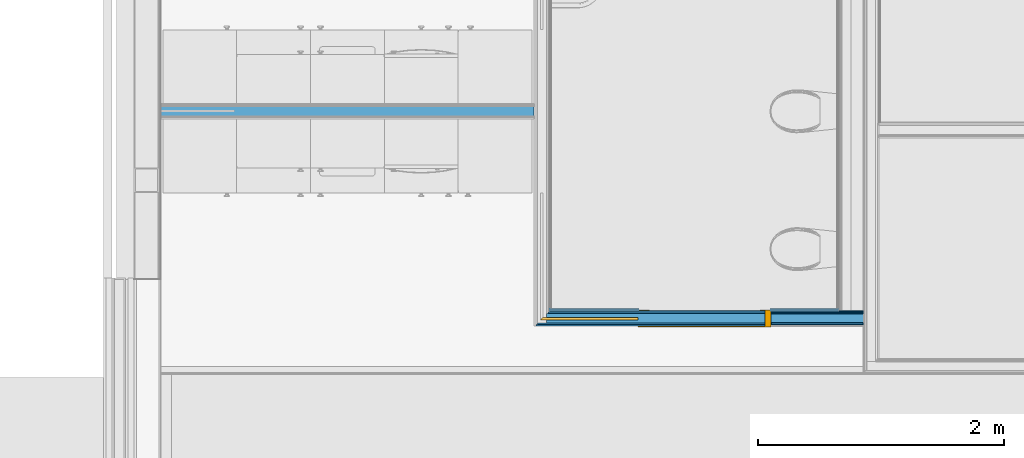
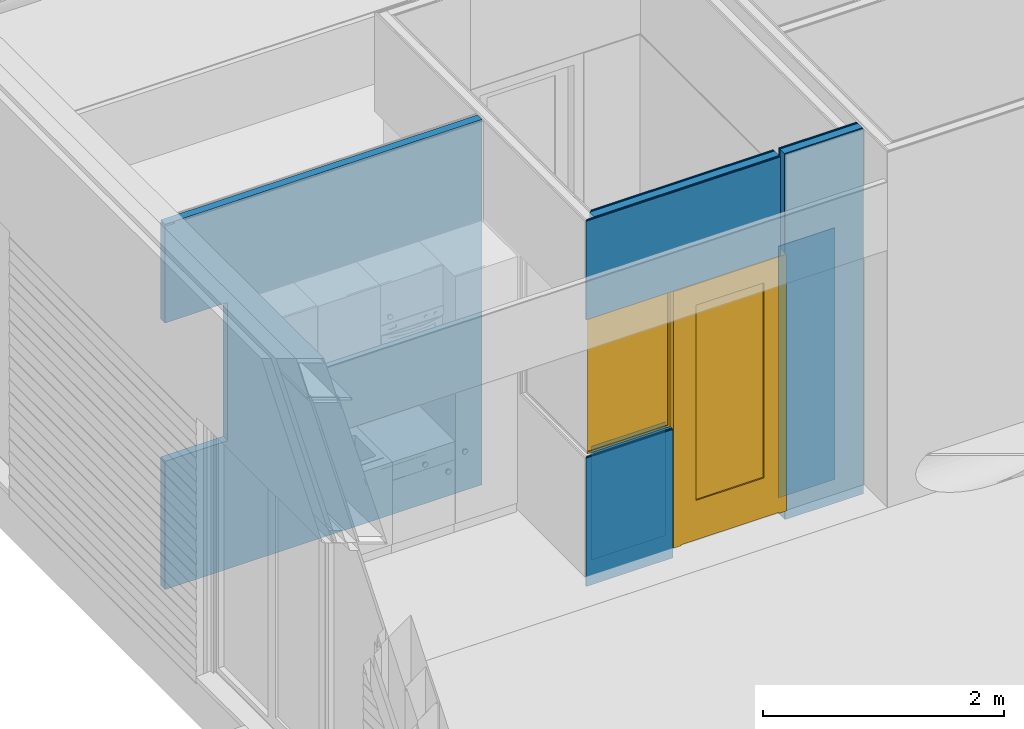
# One storey, part 53 of 165: 12 building element parts, 2 doors, 3 openings, 5 elements without a shape of their own.
"""IFC2X3 building model written with IfcOpenShell, lengths in millimetres."""

from ifc_helpers import new_model, entity, si_unit, converted_unit, derived_unit, money_unit, direction, frame, origin_with_axes, place, context, subcontext, project, spatial, open_shell, faceted_brep, surface_model, material, type_object, element, fill, aggregate, save


model = new_model("IFC2X3")

# Units and contexts
model_context = context("Model", 3, precision=0.01, world=origin_with_axes(), true_north=direction((0.0, 1.0)))
body_context = subcontext(model_context, "Body", "Model", "MODEL_VIEW")
ifc_project = project(units=[si_unit("LENGTHUNIT", "METRE", prefix="MILLI"), si_unit("AREAUNIT", "SQUARE_METRE"), si_unit("VOLUMEUNIT", "CUBIC_METRE"), converted_unit("PLANEANGLEUNIT", "DEGREE", entity("IfcPlaneAngleMeasure", 0.0174532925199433), si_unit("PLANEANGLEUNIT", "RADIAN"), dimensions=[0, 0, 0, 0, 0, 0, 0]), money_unit("EUR"), converted_unit("TIMEUNIT", "Year", entity("IfcTimeMeasure", 31556926.0), si_unit("TIMEUNIT", "SECOND"), dimensions=[0, 0, 1, 0, 0, 0, 0]), si_unit("MASSUNIT", "GRAM", prefix="KILO"), si_unit("THERMODYNAMICTEMPERATUREUNIT", "DEGREE_CELSIUS"), si_unit("LUMINOUSINTENSITYUNIT", "LUMEN"), si_unit("ENERGYUNIT", "JOULE", prefix="MEGA"), derived_unit("THERMALCONDUCTANCEUNIT", [(si_unit("POWERUNIT", "WATT"), 1), (si_unit("LENGTHUNIT", "METRE"), -1), (si_unit("THERMODYNAMICTEMPERATUREUNIT", "KELVIN"), -1)]), derived_unit("SPECIFICHEATCAPACITYUNIT", [(si_unit("ENERGYUNIT", "JOULE"), 1), (si_unit("MASSUNIT", "GRAM", prefix="KILO"), -1), (si_unit("THERMODYNAMICTEMPERATUREUNIT", "KELVIN"), -1)]), derived_unit("MASSDENSITYUNIT", [(si_unit("MASSUNIT", "GRAM", prefix="KILO"), 1), (si_unit("VOLUMEUNIT", "CUBIC_METRE"), -1)])], contexts=[model_context])

# Site, building, storey
site_placement = place(None, origin_with_axes())
site = spatial("IfcSite", under=ifc_project, at=site_placement, Name="Site", CompositionType="ELEMENT")
building_placement = place(site_placement, origin_with_axes())
building = spatial("IfcBuilding", under=site, at=building_placement, Name="Naam gebouw", CompositionType="ELEMENT")
storey_placement = place(building_placement, origin_with_axes())
storey = spatial("IfcBuildingStorey", under=building, at=storey_placement, Name="Begane grond", CompositionType="ELEMENT", Elevation=0.0)

# Door
door_style_1 = type_object("IfcDoorStyle", Name="R1 26", ConstructionType="NOTDEFINED", OperationType="SINGLE_SWING_RIGHT", ParameterTakesPrecedence=False, Sizeable=False)
proxy_1_placement = place(storey_placement, frame((3249.984153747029, 9625.000166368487, -100.0), z_axis=(0.0, 0.0, 1.0), x_axis=(0.9999999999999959, -9.034499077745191e-08, 0.0)))
opening_1_placement = place(proxy_1_placement, frame((457.4995035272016, 0.0, 1300.0), z_axis=(0.0, 0.0, 1.0), x_axis=(1.0, 0.0, 0.0)))
door_1_placement = place(opening_1_placement, frame((387.499510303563, 0.0, 0.0), z_axis=(0.0, 0.0, 1.0), x_axis=(-1.0, 0.0, 0.0)))
door_1 = element("IfcDoor", 1, at=door_1_placement, inside=storey, type_object=door_style_1, Name="_C.04", ObjectType="DOOR", OverallHeight=1400.0, OverallWidth=774.999, context=body_context, shape_type="SurfaceModel", body=[
    faceted_brep([(20.00000632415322, -70.00007453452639, 1380.0), (20.00000451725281, -50.00007453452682, 1380.0), (4.517252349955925e-06, -50.00007634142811, 1380.0), (6.324152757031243e-06, -70.00007634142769, 1380.0), (20.00000632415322, -70.00007453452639, 20.00000000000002), (20.00000451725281, -50.00007453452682, 20.00000000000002), (4.517252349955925e-06, -50.00007634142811, 20.00000000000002), (6.324152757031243e-06, -70.00007634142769, 20.00000000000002)], [[[0, 1, 2, 3]], [[4, 5, 1, 0]], [[1, 5, 6, 2]], [[3, 2, 6, 7]], [[0, 3, 7, 4]], [[7, 6, 5, 4]]]),
    faceted_brep([(4.517252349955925e-06, -50.00007634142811, 20.00000000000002), (6.324152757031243e-06, -70.00007634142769, 20.00000000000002), (20.00000632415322, -70.00007453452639, 20.00000000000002), (20.00000451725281, -50.00007453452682, 20.00000000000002), (6.324152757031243e-06, -70.00007634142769, 0.0), (4.517252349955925e-06, -50.00007634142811, 0.0), (774.9990269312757, -70.00000632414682, 0.0), (774.9990269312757, -70.00000632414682, 20.00000000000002), (794.9990251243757, -50.00000451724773, 20.00000000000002), (794.9990251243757, -50.00000451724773, 0.0)], [[[0, 1, 2, 3]], [[4, 1, 0, 5]], [[1, 4, 6, 7, 2]], [[2, 7, 8, 3]], [[5, 0, 3, 8, 9]], [[5, 9, 6, 4]], [[7, 6, 9, 8]]]),
    faceted_brep([(4.517252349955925e-06, -50.00007634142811, 1380.0), (20.00000451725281, -50.00007453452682, 1380.0), (20.00000632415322, -70.00007453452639, 1380.0), (6.324152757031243e-06, -70.00007634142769, 1380.0), (4.517252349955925e-06, -50.00007634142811, 1400.0), (794.9990251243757, -50.00000451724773, 1400.0), (794.9990251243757, -50.00000451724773, 1380.0), (774.9990269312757, -70.00000632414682, 1380.0), (6.324152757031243e-06, -70.00007634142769, 1400.0), (774.9990269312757, -70.00000632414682, 1400.0)], [[[0, 1, 2, 3]], [[0, 4, 5, 6, 1]], [[7, 2, 1, 6]], [[8, 3, 2, 7, 9]], [[3, 8, 4, 0]], [[4, 8, 9, 5]], [[9, 7, 6, 5]]]),
    surface_model("IfcShellBasedSurfaceModel", [(20.00000587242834, -65.00007453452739, 20.00000000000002), (779.9990264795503, -65.00000587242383, 20.00000000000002), (779.9990264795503, -65.00000587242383, 1380.0), (20.00000587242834, -65.00007453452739, 1380.0)], [open_shell([[[0, 1, 2, 3]]])]),
    surface_model("IfcShellBasedSurfaceModel", [(20.00000496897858, -55.0000745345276, 20.00000000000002), (20.00000496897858, -55.0000745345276, 1380.0), (789.9990255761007, -55.00000496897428, 1380.0), (789.9990255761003, -55.00000496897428, 20.00000000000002)], [open_shell([[[0, 1, 2, 3]]])]),
])

door_style_2 = type_object("IfcDoorStyle", Name="D1 26", ConstructionType="NOTDEFINED", OperationType="SINGLE_SWING_LEFT", ParameterTakesPrecedence=False, Sizeable=False)
opening_2_placement = place(proxy_1_placement, frame((1384.999013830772, 0.0, 100.0), z_axis=(0.0, 0.0, 1.0), x_axis=(1.0, 0.0, 0.0)))
door_2_placement = place(opening_2_placement, frame((449.9999999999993, 0.0, 0.0), z_axis=(0.0, 0.0, 1.0), x_axis=(-1.0, 0.0, 0.0)))
door_2 = element("IfcDoor", 2, at=door_2_placement, inside=storey, type_object=door_style_2, Name="_02.02", ObjectType="DOOR", OverallHeight=2600.0, OverallWidth=1080.0, context=body_context, shape_type="SurfaceModel", body=[
    faceted_brep([(900.000002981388, -33.00008447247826, 0.0), (900.0000119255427, -132.0000844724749, 0.0), (900.0000119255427, -132.0000844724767, 2510.0), (900.000002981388, -33.00008447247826, 2510.0), (917.0000029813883, -33.0000829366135, 0.0), (916.9999993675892, 6.999917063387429, 0.0), (989.9999993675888, 6.999923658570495, 0.0), (990.0000119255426, -132.0000763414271, 0.0), (990.0000119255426, -132.0000763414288, 2510.0), (917.0000029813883, -33.0000829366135, 2510.0), (989.9999993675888, 6.999923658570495, 2510.0), (916.9999993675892, 6.999917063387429, 2510.0)], [[[0, 1, 2, 3]], [[4, 5, 6, 7, 1, 0]], [[1, 7, 8, 2]], [[9, 3, 2, 8, 10, 11]], [[9, 4, 0, 3]], [[11, 5, 4, 9]], [[11, 10, 6, 5]], [[6, 10, 8, 7]]]),
    faceted_brep([(-16.99999701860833, -33.00016731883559, 2510.0), (-17.00000063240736, 6.99983268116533, 2510.0), (-90.00000063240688, 6.999826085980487, 2510.0), (-89.99998807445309, -132.0001739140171, 2510.0), (1.192554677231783e-05, -132.0001657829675, 2510.0), (2.981392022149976e-06, -33.00016578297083, 2510.0), (-16.99999701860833, -33.00016731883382, 0.0), (-17.00000063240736, 6.99983268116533, 0.0), (-90.00000063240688, 6.999826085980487, 0.0), (-89.99998807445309, -132.0001739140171, 0.0), (1.192554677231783e-05, -132.0001657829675, 0.0), (2.981392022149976e-06, -33.00016578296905, 0.0)], [[[0, 1, 2, 3, 4, 5]], [[0, 6, 7, 1]], [[7, 8, 2, 1]], [[2, 8, 9, 3]], [[3, 9, 10, 4]], [[5, 4, 10, 11]], [[5, 11, 6, 0]], [[6, 11, 10, 9, 8, 7]]]),
    faceted_brep([(916.9999993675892, 6.999917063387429, 2527.0), (-17.00000063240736, 6.99983268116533, 2527.0), (-17.00000063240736, 6.99983268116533, 2510.0), (-90.00000063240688, 6.999826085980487, 2510.0), (-90.00000063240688, 6.999826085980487, 2600.0), (989.9999993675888, 6.999923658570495, 2600.0), (989.9999993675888, 6.999923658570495, 2510.0), (916.9999993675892, 6.999917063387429, 2510.0), (917.0000029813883, -33.0000829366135, 2527.0), (-16.99999701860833, -33.00016731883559, 2527.0), (-16.99999701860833, -33.00016731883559, 2510.0), (2.981392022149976e-06, -33.00016578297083, 2510.0), (1.192554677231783e-05, -132.0001657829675, 2510.0), (-89.99998807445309, -132.0001739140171, 2510.0), (-89.99998807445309, -132.0001739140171, 2600.0), (990.0000119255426, -132.0000763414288, 2600.0), (990.0000119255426, -132.0000763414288, 2510.0), (917.0000029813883, -33.0000829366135, 2510.0), (900.0000119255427, -132.0000844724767, 2510.0), (900.000002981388, -33.00008447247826, 2510.0)], [[[0, 1, 2, 3, 4, 5, 6, 7]], [[0, 8, 9, 1]], [[1, 9, 10, 2]], [[10, 11, 12, 13, 3, 2]], [[4, 3, 13, 14]], [[5, 4, 14, 15]], [[6, 5, 15, 16]], [[17, 7, 6, 16, 18, 19]], [[7, 17, 8, 0]], [[10, 9, 8, 17, 19, 11]], [[19, 18, 12, 11]], [[12, 18, 16, 15, 14, 13]]]),
    faceted_brep([(-17.00000063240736, 6.99983268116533, 410.0000000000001), (122.9999993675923, 6.999845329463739, 410.0000000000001), (123.0000029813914, -33.00015467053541, 410.0000000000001), (-16.99999701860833, -33.00016731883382, 410.0000000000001), (-17.00000063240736, 6.99983268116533, 2387.0), (122.9999993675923, 6.999845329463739, 2387.0), (123.0000029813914, -33.00015467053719, 2387.0), (-16.99999701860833, -33.00016731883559, 2387.0)], [[[0, 1, 2, 3]], [[0, 4, 5, 1]], [[1, 5, 6, 2]], [[3, 2, 6, 7]], [[4, 0, 3, 7]], [[5, 4, 7, 6]]]),
    faceted_brep([(916.9999993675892, 6.999917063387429, 410.0000000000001), (916.9999993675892, 6.999917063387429, 2387.0), (917.0000029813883, -33.0000829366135, 2387.0), (917.0000029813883, -33.0000829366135, 410.0000000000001), (776.9999993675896, 6.99990441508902, 410.0000000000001), (776.9999993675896, 6.99990441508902, 2387.0), (777.0000029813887, -33.0000955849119, 2387.0), (777.0000029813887, -33.0000955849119, 410.0000000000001)], [[[0, 1, 2, 3]], [[0, 4, 5, 1]], [[1, 5, 6, 2]], [[3, 2, 6, 7]], [[4, 0, 3, 7]], [[5, 4, 7, 6]]]),
    faceted_brep([(-17.00000063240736, 6.99983268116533, 10.0), (916.9999993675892, 6.999917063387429, 10.0), (917.0000029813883, -33.0000829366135, 9.999999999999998), (-16.99999701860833, -33.00016731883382, 9.999999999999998), (-17.00000063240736, 6.99983268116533, 410.0000000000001), (122.9999993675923, 6.999845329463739, 410.0000000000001), (776.9999993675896, 6.99990441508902, 410.0000000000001), (916.9999993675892, 6.999917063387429, 410.0000000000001), (917.0000029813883, -33.0000829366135, 410.0000000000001), (777.0000029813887, -33.0000955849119, 410.0000000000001), (123.0000029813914, -33.00015467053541, 410.0000000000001), (-16.99999701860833, -33.00016731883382, 410.0000000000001)], [[[0, 1, 2, 3]], [[0, 4, 5, 6, 7, 1]], [[1, 7, 8, 2]], [[3, 2, 8, 9, 10, 11]], [[4, 0, 3, 11]], [[5, 4, 11, 10]], [[6, 5, 10, 9]], [[7, 6, 9, 8]]]),
    faceted_brep([(-17.00000063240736, 6.99983268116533, 2527.0), (-17.00000063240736, 6.99983268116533, 2387.0), (-16.99999701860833, -33.00016731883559, 2387.0), (-16.99999701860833, -33.00016731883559, 2527.0), (916.9999993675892, 6.999917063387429, 2527.0), (916.9999993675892, 6.999917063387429, 2387.0), (776.9999993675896, 6.99990441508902, 2387.0), (122.9999993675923, 6.999845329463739, 2387.0), (123.0000029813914, -33.00015467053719, 2387.0), (777.0000029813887, -33.0000955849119, 2387.0), (917.0000029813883, -33.0000829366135, 2387.0), (917.0000029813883, -33.0000829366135, 2527.0)], [[[0, 1, 2, 3]], [[0, 4, 5, 6, 7, 1]], [[1, 7, 8, 2]], [[3, 2, 8, 9, 10, 11]], [[4, 0, 3, 11]], [[5, 4, 11, 10]], [[6, 5, 10, 9]], [[7, 6, 9, 8]]]),
    surface_model("IfcShellBasedSurfaceModel", [(123.0000006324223, -7.000154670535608, 410.0000000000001), (123.0000006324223, -7.000154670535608, 2387.0), (777.0000006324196, -7.000095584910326, 2387.0), (777.0000006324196, -7.000095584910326, 410.0000000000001)], [open_shell([[[0, 1, 2, 3]]])]),
    surface_model("IfcShellBasedSurfaceModel", [(123.0000017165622, -19.00015467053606, 410.0000000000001), (777.0000017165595, -19.00009558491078, 410.0000000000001), (777.0000017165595, -19.00009558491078, 2387.0), (123.0000017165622, -19.00015467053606, 2387.0)], [open_shell([[[0, 1, 2, 3]]])]),
])

# Proxy, opening
building_element_proxy_type_1 = type_object("IfcBuildingElementProxyType", Name="22 Metal stud 125 gips 125", PredefinedType="NOTDEFINED")
proxy_1 = element("IfcBuildingElementProxy", 3, at=proxy_1_placement, inside=storey, type_object=building_element_proxy_type_1, Name="_Wand-x")
opening_1 = element("IfcOpeningElement", 4, at=opening_1_placement, cuts=proxy_1, Name="_C.04", context=body_context, shape_type="Brep", body=[
    faceted_brep([(387.4995057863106, 50.00007634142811, 0.0), (387.4995057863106, 50.00007634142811, 1400.0), (387.49951039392, -1.000093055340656, 1400.0), (387.49951039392, -1.000093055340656, 0.0), (387.4994989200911, 126.0000763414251, 0.0), (387.4994989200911, 126.0000763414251, 1400.0), (-407.4992753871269, 50.00000451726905, 1400.0), (-457.499510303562, -6.776332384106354e-06, 1400.0), (-457.4995102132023, -1.000169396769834, 1400.0), (-457.4995102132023, -1.000169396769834, 0.0), (-407.4992753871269, 50.00000451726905, 0.0), (-457.499510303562, -6.776332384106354e-06, 0.0), (-331.4989286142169, 126.0000113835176, 0.0), (-331.4989286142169, 126.0000113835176, 1400.0)], [[[0, 1, 2, 3]], [[1, 0, 4, 5]], [[1, 6, 7, 8, 2]], [[8, 9, 3, 2]], [[10, 0, 3, 9, 11]], [[0, 10, 12, 4]], [[5, 4, 12, 13]], [[6, 1, 5, 13]], [[7, 6, 13, 12, 10, 11]], [[11, 9, 8, 7]]]),
])

fill(opening_1, door_1)

# Opening
opening_2 = element("IfcOpeningElement", 5, at=opening_2_placement, cuts=proxy_1, Name="_02.02", context=body_context, shape_type="Brep", body=[
    faceted_brep([(539.9999886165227, 126.0001739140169, 2600.0), (539.9999886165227, 126.0001739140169, -100.0000000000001), (-540.0000113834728, 126.0000763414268, -100.0000000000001), (-540.0000113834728, 126.0000763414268, 2600.0), (540.0000000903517, -0.9999954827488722, 2600.0), (540.0000000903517, -0.9999954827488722, -100.0000000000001), (-539.9999999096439, -1.00009305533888, -100.0000000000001), (-539.9999999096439, -1.00009305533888, 2600.0)], [[[0, 1, 2, 3]], [[4, 5, 1, 0]], [[5, 6, 2, 1]], [[6, 7, 3, 2]], [[7, 4, 0, 3]], [[6, 5, 4, 7]]]),
])

fill(opening_2, door_2)

# Building element part
ifc_material_1 = material(Name="Gipsplaat")
building_element_part_1_placement = place(proxy_1_placement, origin_with_axes())
building_element_part_1 = element("IfcBuildingElementPart", 6, at=building_element_part_1_placement, material=ifc_material_1, Name="Gipsplaat", context=body_context, shape_type="Brep", body=[
    faceted_brep([(125.0005599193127, 125.000000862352, 1300.0), (844.9990025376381, 125.000065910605, 1300.0), (844.9990025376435, 125.0000763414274, 0.0), (125.0005590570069, 125.0000112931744, 0.0), (844.9990036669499, 112.5000763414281, 1300.0), (125.0005031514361, 112.5000112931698, 1300.0), (844.9990036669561, 112.5000763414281, 0.0), (125.0005031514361, 112.5000112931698, 0.0)], [[[0, 1, 2, 3]], [[4, 1, 0, 5]], [[1, 4, 6, 2]], [[3, 2, 6, 7]], [[5, 0, 3, 7]], [[4, 5, 7, 6]]]),
    faceted_brep([(844.9990036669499, 112.5000763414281, 2700.0), (844.9990025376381, 125.000065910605, 2700.0), (1874.999012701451, 125.0001693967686, 2700.0), (1874.999013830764, 112.5001693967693, 2700.0), (125.0005599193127, 125.000000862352, 2700.0), (125.0005031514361, 112.5000112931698, 2700.0), (125.0005590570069, 125.0000112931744, 3700.0), (1874.999012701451, 125.0001693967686, 3700.0), (1874.999013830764, 112.5001693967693, 3700.0), (125.0005031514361, 112.5000112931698, 3700.0)], [[[0, 1, 2, 3]], [[4, 1, 0, 5]], [[1, 4, 6, 7, 2]], [[8, 3, 2, 7]], [[5, 0, 3, 8, 9]], [[4, 5, 9, 6]], [[8, 7, 6, 9]]]),
])

building_element_part_2_placement = place(proxy_1_placement, origin_with_axes())
building_element_part_2 = element("IfcBuildingElementPart", 7, at=building_element_part_2_placement, material=ifc_material_1, Name="Gipsplaat", context=body_context, shape_type="Brep", body=[
    faceted_brep([(112.5005082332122, 112.5000050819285, 1300.0), (844.9990036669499, 112.5000763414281, 1300.0), (844.9990036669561, 112.5000763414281, 0.0), (112.5005031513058, 112.5000101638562, 0.0), (844.9990047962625, 100.0000763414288, 1300.0), (112.5004472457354, 100.0000101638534, 1300.0), (844.9990047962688, 100.0000763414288, 0.0), (112.5004472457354, 100.0000101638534, 0.0)], [[[0, 1, 2, 3]], [[4, 1, 0, 5]], [[1, 4, 6, 2]], [[3, 2, 6, 7]], [[5, 0, 3, 7]], [[4, 5, 7, 6]]]),
    faceted_brep([(844.9990047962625, 100.0000763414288, 2700.0), (844.9990036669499, 112.5000763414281, 2700.0), (1874.999012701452, 112.5001693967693, 2700.0), (1874.999013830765, 100.00016939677, 2700.0), (112.5005082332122, 112.5000050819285, 2700.0), (112.5004472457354, 100.0000101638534, 2700.0), (112.5005031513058, 112.5000101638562, 3700.0), (1874.999012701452, 112.5001693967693, 3700.0), (1874.999013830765, 100.00016939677, 3700.0), (112.5004472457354, 100.0000101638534, 3700.0)], [[[0, 1, 2, 3]], [[4, 1, 0, 5]], [[1, 4, 6, 7, 2]], [[8, 3, 2, 7]], [[5, 0, 3, 8, 9]], [[4, 5, 9, 6]], [[8, 7, 6, 9]]]),
])

building_element_part_3_placement = place(proxy_1_placement, origin_with_axes())
building_element_part_3 = element("IfcBuildingElementPart", 8, at=building_element_part_3_placement, material=ifc_material_1, Name="Gipsplaat", context=body_context, shape_type="Brep", body=[
    faceted_brep([(25.00011294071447, 25.00000112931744, 1300.0), (844.9990115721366, 25.00007634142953, 1300.0), (844.9990115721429, 25.00007634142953, 0.0), (25.00011181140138, 25.0000022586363, 0.0), (844.9990127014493, 12.50007634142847, 1300.0), (25.00005590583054, 12.50000225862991, 1300.0), (844.9990127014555, 12.50007634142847, 0.0), (25.00005590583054, 12.50000225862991, 0.0)], [[[0, 1, 2, 3]], [[4, 1, 0, 5]], [[1, 4, 6, 2]], [[3, 2, 6, 7]], [[5, 0, 3, 7]], [[4, 5, 7, 6]]]),
    faceted_brep([(844.9990127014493, 12.50007634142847, 2700.0), (844.9990115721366, 25.00007634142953, 2700.0), (1874.999012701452, 25.00016939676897, 2700.0), (1874.999013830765, 12.50016939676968, 2700.0), (25.00011294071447, 25.00000112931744, 2700.0), (25.00005590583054, 12.50000225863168, 2700.0), (25.00011181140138, 25.0000022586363, 3700.0), (1874.999012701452, 25.00016939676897, 3700.0), (1874.999013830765, 12.50016939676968, 3700.0), (25.00005590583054, 12.50000225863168, 3700.0)], [[[0, 1, 2, 3]], [[4, 1, 0, 5]], [[1, 4, 6, 7, 2]], [[8, 3, 2, 7]], [[5, 0, 3, 8, 9]], [[4, 5, 9, 6]], [[8, 7, 6, 9]]]),
])

building_element_part_4_placement = place(proxy_1_placement, origin_with_axes())
building_element_part_4 = element("IfcBuildingElementPart", 9, at=building_element_part_4_placement, material=ifc_material_1, Name="Gipsplaat", context=body_context, shape_type="Brep", body=[
    faceted_brep([(12.50005647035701, 12.50000056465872, 1300.0), (844.9990127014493, 12.50007634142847, 1300.0), (844.9990127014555, 12.50007634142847, 0.0), (12.50005590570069, 12.50000112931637, 0.0), (844.999013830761, 7.634142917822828e-05, 1300.0), (12.50000000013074, 1.129313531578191e-06, 1300.0), (844.9990138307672, 7.634142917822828e-05, 0.0), (12.50000000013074, 1.129313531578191e-06, 0.0)], [[[0, 1, 2, 3]], [[4, 1, 0, 5]], [[1, 4, 6, 2]], [[3, 2, 6, 7]], [[5, 0, 3, 7]], [[4, 5, 7, 6]]]),
    faceted_brep([(844.999013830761, 7.634142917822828e-05, 2700.0), (844.9990127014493, 12.50007634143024, 2700.0), (1874.999012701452, 12.50016939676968, 2700.0), (1874.999013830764, 0.0001693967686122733, 2700.0), (12.50005647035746, 12.50000056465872, 2700.0), (12.50000000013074, 1.129313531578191e-06, 2700.0), (12.50005590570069, 12.50000112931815, 3700.0), (1874.999012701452, 12.50016939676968, 3700.0), (1874.999013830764, 0.0001693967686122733, 3700.0), (12.50000000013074, 1.129313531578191e-06, 3700.0)], [[[0, 1, 2, 3]], [[4, 1, 0, 5]], [[1, 4, 6, 7, 2]], [[8, 3, 2, 7]], [[5, 0, 3, 8, 9]], [[4, 5, 9, 6]], [[8, 7, 6, 9]]]),
])

ifc_material_2 = material(Name="ALG - LICHTE SCHEIDINGSWAND")
building_element_part_5_placement = place(proxy_1_placement, origin_with_axes())
building_element_part_5 = element("IfcBuildingElementPart", 10, at=building_element_part_5_placement, material=ifc_material_2, Name="ALG - LICHTE SCHEIDINGSWAND", context=body_context, shape_type="Brep", body=[
    faceted_brep([(100.0004517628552, 100.0000045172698, 1300.0), (844.9990047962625, 100.0000763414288, 1300.0), (844.9990047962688, 100.0000763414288, 0.0), (100.0004472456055, 100.0000090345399, 0.0), (844.9990093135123, 50.00007634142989, 1300.0), (100.0002236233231, 50.0000090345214, 1300.0), (844.9990115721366, 25.00007634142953, 1300.0), (844.9990115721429, 25.00007634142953, 0.0), (100.0001118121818, 25.00000903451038, 0.0), (100.0001118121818, 25.00000903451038, 1300.0)], [[[0, 1, 2, 3]], [[4, 1, 0, 5]], [[4, 6, 7, 2, 1]], [[3, 2, 7, 8]], [[5, 0, 3, 8, 9]], [[6, 4, 5, 9]], [[6, 9, 8, 7]]]),
    faceted_brep([(844.9990115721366, 25.00007634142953, 2700.0), (844.9990093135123, 50.00007634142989, 2700.0), (844.9990047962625, 100.0000763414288, 2700.0), (1874.99900705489, 100.0001693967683, 2700.0), (1874.999013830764, 25.00016939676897, 2700.0), (100.0001118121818, 25.00000903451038, 2700.0), (100.0002236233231, 50.0000090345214, 2700.0), (100.0004517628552, 100.0000045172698, 2700.0), (100.0004472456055, 100.0000090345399, 3700.0), (1874.99900705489, 100.0001693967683, 3700.0), (1874.999013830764, 25.00016939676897, 3700.0), (100.0001118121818, 25.00000903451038, 3700.0)], [[[0, 1, 2, 3, 4]], [[1, 0, 5, 6]], [[7, 2, 1, 6]], [[2, 7, 8, 9, 3]], [[10, 4, 3, 9]], [[5, 0, 4, 10, 11]], [[6, 5, 11, 8, 7]], [[10, 9, 8, 11]]]),
])

aggregate(proxy_1, [building_element_part_1, building_element_part_2, building_element_part_3, building_element_part_4, building_element_part_5])

# Proxy, opening, building element part
proxy_2_placement = place(storey_placement, frame((3249.992115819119, 11370.00069798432, -100.0), z_axis=(0.0, 0.0, 1.0), x_axis=(-1.0, 2.434821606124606e-09, 0.0)))
proxy_2 = element("IfcBuildingElementProxy", 11, at=proxy_2_placement, inside=storey, type_object=building_element_proxy_type_1, Name="_Wand-x")
opening_3_placement = place(proxy_2_placement, frame((2735.99211566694, 0.0, 1300.0), z_axis=(0.0, 0.0, 1.0), x_axis=(1.0, 0.0, 0.0)))
element("IfcOpeningElement", 12, at=opening_3_placement, cuts=proxy_2, Name="_C.07", context=body_context, shape_type="Brep", body=[
    faceted_brep([(299.9999998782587, -12.49999260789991, 0.0), (299.9999998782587, -12.49999260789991, 1400.0), (300.0000000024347, -63.50000052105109, 1400.0), (300.0000000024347, -63.50000052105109, 0.0), (299.9999996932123, 63.50000739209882, 0.0), (299.9999996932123, 63.50000739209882, 1400.0), (-300.0000001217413, -12.49999406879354, 1400.0), (-299.9999999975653, -63.50000198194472, 1400.0), (-300.0000003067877, 63.50000593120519, 1400.0), (-299.9999999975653, -63.50000198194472, 0.0), (-300.0000001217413, -12.49999406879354, 0.0), (-300.0000003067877, 63.50000593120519, 0.0)], [[[0, 1, 2, 3]], [[1, 0, 4, 5]], [[6, 7, 2, 1, 5, 8]], [[7, 9, 3, 2]], [[0, 3, 9, 10, 11, 4]], [[5, 4, 11, 8]], [[6, 10, 9, 7]], [[10, 6, 8, 11]]]),
])
building_element_part_6_placement = place(proxy_2_placement, origin_with_axes())
building_element_part_6 = element("IfcBuildingElementPart", 13, at=building_element_part_6_placement, material=ifc_material_2, Name="ALG - LICHTE SCHEIDINGSWAND", context=body_context, shape_type="Brep", body=[
    faceted_brep([(2435.992115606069, -37.4999940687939, 1300.0), (2435.992115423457, 37.50000593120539, 1300.0), (2435.992115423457, 37.50000593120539, 2700.0), (2435.992115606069, -37.4999940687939, 2700.0), (3035.992115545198, -12.49999260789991, 1300.0), (3035.992115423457, 37.50000739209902, 1300.0), (3035.992115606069, -37.49999260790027, 1300.0), (3035.992115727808, 37.50000739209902, 0.0), (0.0001710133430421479, 37.49999999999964, 0.0), (0.0001710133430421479, 37.49999999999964, 3700.0), (3035.992115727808, 37.50000739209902, 3700.0), (3035.992115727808, 37.50000739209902, 3694.999999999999), (2945.992111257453, 37.50000717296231, 3694.999999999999), (2945.992111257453, 37.50000717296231, 3679.999999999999), (3035.992115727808, 37.50000739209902, 3679.999999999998), (3035.992115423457, 37.50000739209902, 2700.0), (3035.992115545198, -12.49999260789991, 2700.0), (3035.992115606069, -37.49999260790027, 2700.0), (-0.0001710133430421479, -37.49999999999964, 3700.0), (-0.0001710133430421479, -37.49999999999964, 0.0), (3035.99211591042, -37.49999260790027, 0.0), (3035.99211591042, -37.49999260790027, 3679.999999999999), (2945.992111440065, -37.49999282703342, 3679.999999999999), (2945.992111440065, -37.49999282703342, 3694.999999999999), (3035.99211591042, -37.49999260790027, 3694.999999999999), (3035.99211591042, -37.49999260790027, 3700.0)], [[[0, 1, 2, 3]], [[4, 5, 1, 0, 6]], [[1, 5, 7, 8, 9, 10, 11, 12, 13, 14, 15, 2]], [[3, 2, 15, 16, 17]], [[18, 19, 20, 6, 0, 3, 17, 21, 22, 23, 24, 25]], [[5, 4, 6, 20, 7]], [[19, 8, 7, 20]], [[19, 18, 9, 8]], [[9, 18, 25, 10]], [[10, 25, 24, 11]], [[12, 11, 24, 23]], [[13, 12, 23, 22]], [[14, 13, 22, 21]], [[16, 15, 14, 21, 17]]]),
])
aggregate(proxy_2, [building_element_part_6])

# Proxy, building element part
building_element_proxy_type_2 = type_object("IfcBuildingElementProxyType", Name="42 Tegelwerk 1200+ 12 x 1200", PredefinedType="NOTDEFINED")
proxy_3_placement = place(storey_placement, frame((3394.984815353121, 9770.000153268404, 0.0), z_axis=(0.0, 0.0, 1.0), x_axis=(1.0, 0.0, 0.0)))
proxy_3 = element("IfcBuildingElementProxy", 14, at=proxy_3_placement, inside=storey, type_object=building_element_proxy_type_2, Name="_Wand-x")
ifc_material_3 = material(Name="21 STO lijmlaag")
building_element_part_7_placement = place(proxy_3_placement, origin_with_axes())
building_element_part_7 = element("IfcBuildingElementPart", 15, at=building_element_part_7_placement, material=ifc_material_3, Name="21 STO lijmlaag", context=body_context, shape_type="Brep", body=[
    faceted_brep([(-13.00005261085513, -12.99999329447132, 50.00000000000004), (-13.00005261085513, -12.99999329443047, 1200.0), (699.9983635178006, -12.99999329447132, 1200.0), (699.9983635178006, -12.99999329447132, 50.00000000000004), (-13.00008455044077, -20.00000447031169, 1200.0), (-13.00006173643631, -14.99999329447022, 50.00000000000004), (-13.00008455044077, -20.00000447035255, 50.00000000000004), (699.9983635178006, -20.00000447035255, 1200.0), (699.9983635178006, -20.00000447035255, 50.00000000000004), (699.9983635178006, -14.99999329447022, 50.00000000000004)], [[[0, 1, 2, 3]], [[4, 1, 0, 5, 6]], [[1, 4, 7, 2]], [[8, 9, 3, 2, 7]], [[5, 0, 3, 9]], [[6, 5, 9, 8]], [[4, 6, 8, 7]]]),
])
aggregate(proxy_3, [building_element_part_7])

building_element_proxy_type_3 = type_object("IfcBuildingElementProxyType", Name="42 Tegelwerk 2600+ 12 x 2600", PredefinedType="NOTDEFINED")
proxy_4_placement = place(storey_placement, frame((5704.983190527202, 9769.999944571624, 0.0), z_axis=(0.0, 0.0, 1.0), x_axis=(-1.0, 0.0, 0.0)))
proxy_4 = element("IfcBuildingElementProxy", 16, at=proxy_4_placement, inside=storey, type_object=building_element_proxy_type_3, Name="_Wand-x")
building_element_part_8_placement = place(proxy_4_placement, origin_with_axes())
building_element_part_8 = element("IfcBuildingElementPart", 17, at=building_element_part_8_placement, material=ifc_material_3, Name="21 STO lijmlaag", context=body_context, shape_type="Brep", body=[
    faceted_brep([(-13.00000130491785, 19.99999552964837, 2600.0), (-13.00000241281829, 13.00000447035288, 2600.0), (530.000011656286, 13.00000447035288, 2600.0), (530.000011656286, 19.99999552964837, 2600.0), (-13.0000024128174, 13.00000447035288, 50.00000000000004), (-13.00000130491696, 19.9999955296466, 50.00000000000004), (-13.00000209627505, 14.99999850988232, 50.00000000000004), (530.000011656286, 13.00000447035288, 50.00000000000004), (530.000011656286, 19.9999955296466, 50.00000000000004), (530.000011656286, 14.99999850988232, 50.00000596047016)], [[[0, 1, 2, 3]], [[4, 1, 0, 5, 6]], [[1, 4, 7, 2]], [[8, 3, 2, 7, 9]], [[5, 0, 3, 8]], [[6, 5, 8, 9]], [[4, 6, 9, 7]]]),
])
aggregate(proxy_4, [building_element_part_8])

# Proxy, building element parts
building_element_proxy_type_4 = type_object("IfcBuildingElementProxyType", Name="22 Metal stud 125 oregon pine 125", PredefinedType="NOTDEFINED")
proxy_5_placement = place(storey_placement, frame((5174.983167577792, 9624.99999245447, -100.0), z_axis=(0.0, 0.0, 1.0), x_axis=(0.999999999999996, -9.034499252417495e-08, 0.0)))
proxy_5 = element("IfcBuildingElementProxy", 18, at=proxy_5_placement, inside=storey, type_object=building_element_proxy_type_4, Name="_Wand-x")
building_element_part_9_placement = place(proxy_5_placement, origin_with_axes())
building_element_part_9 = element("IfcBuildingElementPart", 19, at=building_element_part_9_placement, material=ifc_material_1, Name="Gipsplaat", context=body_context, shape_type="Brep", body=[
    faceted_brep([(749.9999898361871, 112.5000677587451, 0.0), (749.9999909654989, 100.000067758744, 0.0), (-9.034499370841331e-06, 99.99999999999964, 0.0), (-1.016381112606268e-05, 112.5000000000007, 0.0), (749.9999898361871, 112.5000677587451, 3700.0), (749.9999909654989, 100.000067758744, 3700.0), (-9.034499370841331e-06, 99.99999999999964, 3700.0), (-1.016381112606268e-05, 112.5000000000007, 3700.0)], [[[0, 1, 2, 3]], [[0, 4, 5, 1]], [[1, 5, 6, 2]], [[3, 2, 6, 7]], [[4, 0, 3, 7]], [[5, 4, 7, 6]]]),
])
building_element_part_10_placement = place(proxy_5_placement, origin_with_axes())
building_element_part_10 = element("IfcBuildingElementPart", 20, at=building_element_part_10_placement, material=ifc_material_2, Name="ALG - LICHTE SCHEIDINGSWAND", context=body_context, shape_type="Brep", body=[
    faceted_brep([(749.9999909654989, 100.000067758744, 0.0), (749.9999977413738, 25.00006775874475, 0.0), (-2.258624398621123e-06, 25.00000000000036, 0.0), (-9.034499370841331e-06, 99.99999999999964, 0.0), (749.9999909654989, 100.000067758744, 3700.0), (749.9999977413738, 25.00006775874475, 3700.0), (-2.258624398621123e-06, 25.00000000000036, 3700.0), (-9.034499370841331e-06, 99.99999999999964, 3700.0)], [[[0, 1, 2, 3]], [[0, 4, 5, 1]], [[1, 5, 6, 2]], [[3, 2, 6, 7]], [[4, 0, 3, 7]], [[5, 4, 7, 6]]]),
])
building_element_part_11_placement = place(proxy_5_placement, origin_with_axes())
building_element_part_11 = element("IfcBuildingElementPart", 21, at=building_element_part_11_placement, material=ifc_material_1, Name="Gipsplaat", context=body_context, shape_type="Brep", body=[
    faceted_brep([(749.9999977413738, 25.00006775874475, 0.0), (749.9999988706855, 12.50006775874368, 0.0), (-1.129312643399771e-06, 12.49999999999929, 0.0), (-2.258624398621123e-06, 25.00000000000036, 0.0), (749.9999977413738, 25.00006775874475, 3700.0), (749.9999988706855, 12.50006775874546, 3700.0), (-1.129312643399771e-06, 12.50000000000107, 3700.0), (-2.258624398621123e-06, 25.00000000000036, 3700.0)], [[[0, 1, 2, 3]], [[0, 4, 5, 1]], [[1, 5, 6, 2]], [[3, 2, 6, 7]], [[4, 0, 3, 7]], [[5, 4, 7, 6]]]),
])
building_element_part_12_placement = place(proxy_5_placement, origin_with_axes())
building_element_part_12 = element("IfcBuildingElementPart", 22, at=building_element_part_12_placement, material=ifc_material_1, Name="Gipsplaat", context=body_context, shape_type="Brep", body=[
    faceted_brep([(749.9999887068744, 125.0000677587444, 0.0), (749.9999898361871, 112.5000677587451, 0.0), (-1.016381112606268e-05, 112.5000000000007, 0.0), (-1.129312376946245e-05, 125.0, 0.0), (749.9999887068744, 125.0000677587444, 3700.0), (749.9999898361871, 112.5000677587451, 3700.0), (-1.016381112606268e-05, 112.5000000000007, 3700.0), (-1.129312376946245e-05, 125.0, 3700.0)], [[[0, 1, 2, 3]], [[0, 4, 5, 1]], [[1, 5, 6, 2]], [[3, 2, 6, 7]], [[4, 0, 3, 7]], [[5, 4, 7, 6]]]),
])
aggregate(proxy_5, [building_element_part_9, building_element_part_10, building_element_part_11, building_element_part_12])

save(model, "model.ifc")
